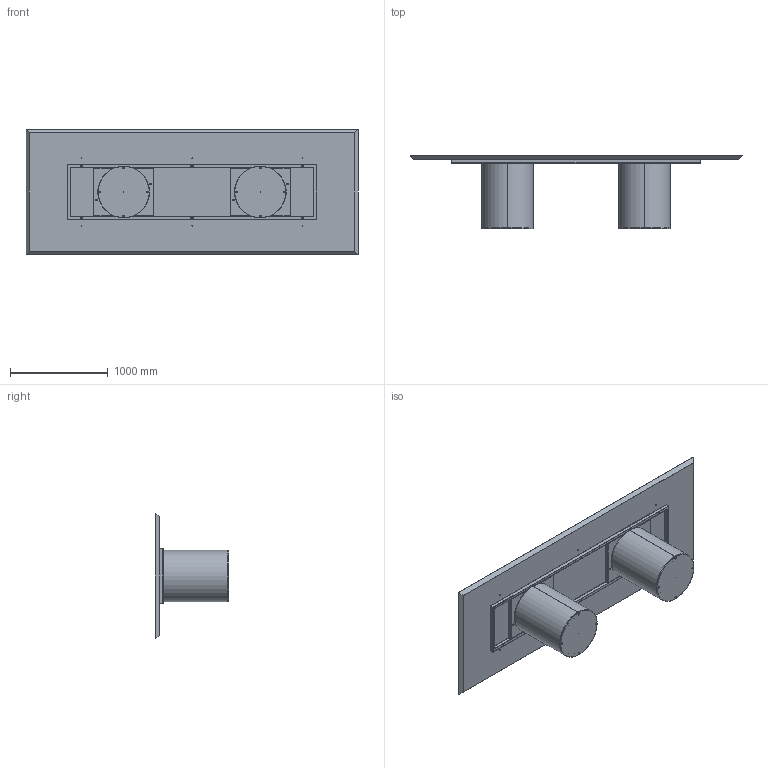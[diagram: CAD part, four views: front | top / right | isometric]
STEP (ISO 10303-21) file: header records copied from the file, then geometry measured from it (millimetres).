
FILE_DESCRIPTION (( 'STEP AP203' ), '1' );
FILE_NAME ('CI26W.STEP', '2024-08-08T07:10:32', ( '' ), ( '' ), 'SwSTEP 2.0', 'SolidWorks 2022', '' );
FILE_SCHEMA (( 'CONFIG_CONTROL_DESIGN' ));
Length unit declared in the file: millimetre
Products named in the file (12): TTAV03-06-TELAIO UNIVERSALE X TAVOLI 300-340cm; M8xXXmm_hex_M8X20mm; TTAV03_02-06-VASSOIO IRRIGIDIMENTO TELAIO UNIVERSALE RETTANGOLARE; C2B000000-03-CILINDRO BASE D.530mm_Normale; M8xXXmm_M8x55mm; C2B000000_01-00-struttura cilindro D.530mm; TTAV03_01-06-RING TUBO TELAIO UNIVERSALE X TAVOLI 300-340cm; rondella M8_8X24; W2XCMXX-00-Piani Rettangolari in legno_3400 x 1280; COLLO TELAIO UNIVERSALE TTAV03 CON FERRAMENTA_MTG TOP LEGNO-MARMO-KING; C2B000000_02-01-ZAVORRA IN FERRO D.530mm; CI26W
Assembly tree (26 placements, depth 4):
  CI26W
    C2B000000-03-CILINDRO BASE D.530mm_Normale  x2
      C2B000000_01-00-struttura cilindro D.530mm
      C2B000000_02-01-ZAVORRA IN FERRO D.530mm
      M8xXXmm_hex_M8X20mm
    COLLO TELAIO UNIVERSALE TTAV03 CON FERRAMENTA_MTG TOP LEGNO-MARMO-KING
      TTAV03-06-TELAIO UNIVERSALE X TAVOLI 300-340cm
        TTAV03_01-06-RING TUBO TELAIO UNIVERSALE X TAVOLI 300-340cm
        TTAV03_02-06-VASSOIO IRRIGIDIMENTO TELAIO UNIVERSALE RETTANGOLARE  x2
      rondella M8_8X24  x6
      M8xXXmm_M8x55mm  x6
    W2XCMXX-00-Piani Rettangolari in legno_3400 x 1280
Bounding box: 3400 x 748 x 1280 mm (x, y, z)
Volume: 174322636.8 mm3; surface area: 17939730.7 mm2
Topology: 34 solids, 34 shells, 1216 faces, 2784 edges, 1596 vertices
Faces by surface type: plane 514, cylinder 392, cone 186, torus 88, sphere 36
Entity records: 16227 total; most frequent: DIRECTION 2675, CARTESIAN_POINT 2549, ORIENTED_EDGE 2352, EDGE_CURVE 1176, AXIS2_PLACEMENT_3D 1005, VERTEX_POINT 713, VECTOR 665, LINE 665
